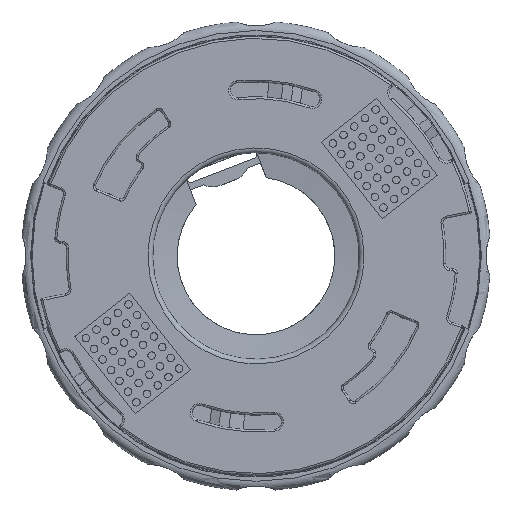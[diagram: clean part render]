
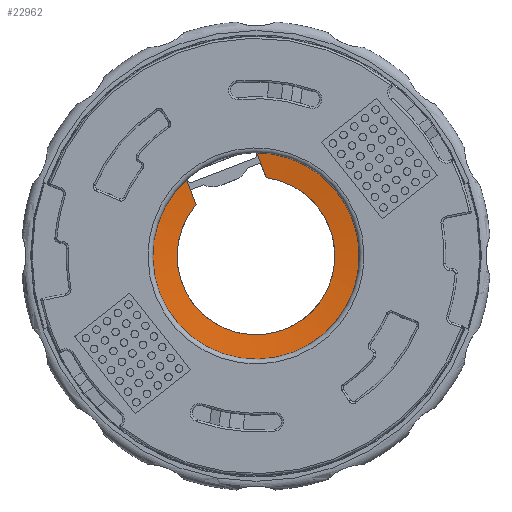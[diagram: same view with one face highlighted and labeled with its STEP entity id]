
A CAD part, top view. The second image highlights one B-rep face of the part: STEP entity #22962.
In plain terms, the highlighted conical face has half-angle 82.614 degrees and reference radius 11 mm.
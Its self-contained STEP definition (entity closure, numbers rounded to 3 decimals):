
#460=CONICAL_SURFACE('',#25172,11.,1.442);
#1275=CIRCLE('',#25152,11.);
#1282=CIRCLE('',#25169,8.4);
#1763=B_SPLINE_CURVE_WITH_KNOTS('',3,(#40210,#40211,#40212,#40213),
 .UNSPECIFIED.,.F.,.F.,(4,4),(0.,1.),.UNSPECIFIED.);
#1764=B_SPLINE_CURVE_WITH_KNOTS('',3,(#40228,#40229,#40230,#40231),
 .UNSPECIFIED.,.F.,.F.,(4,4),(0.,1.),.UNSPECIFIED.);
#8145=ORIENTED_EDGE('',*,*,#11428,.F.);
#8146=ORIENTED_EDGE('',*,*,#11520,.F.);
#8147=ORIENTED_EDGE('',*,*,#11436,.F.);
#8148=ORIENTED_EDGE('',*,*,#11507,.T.);
#11428=EDGE_CURVE('',#13709,#13710,#1763,.T.);
#11436=EDGE_CURVE('',#13714,#13715,#1764,.T.);
#11507=EDGE_CURVE('',#13714,#13710,#1275,.F.);
#11520=EDGE_CURVE('',#13715,#13709,#1282,.T.);
#13709=VERTEX_POINT('',#40209);
#13710=VERTEX_POINT('',#40214);
#13714=VERTEX_POINT('',#40227);
#13715=VERTEX_POINT('',#40232);
#19236=EDGE_LOOP('',(#8145,#8146,#8147,#8148));
#20816=FACE_BOUND('',#19236,.T.);
#22962=ADVANCED_FACE('',(#20816),#460,.F.);
#25152=AXIS2_PLACEMENT_3D('',#40398,#31122,#31123);
#25169=AXIS2_PLACEMENT_3D('',#40432,#31160,#31161);
#25172=AXIS2_PLACEMENT_3D('',#40435,#31166,#31167);
#31122=DIRECTION('',(0.,0.,-1.));
#31123=DIRECTION('',(0.358,-0.934,0.));
#31160=DIRECTION('',(0.,0.,1.));
#31161=DIRECTION('',(-0.76,0.65,0.));
#31166=DIRECTION('',(0.,0.,1.));
#31167=DIRECTION('',(0.358,-0.934,0.));
#40209=CARTESIAN_POINT('',(1.087,8.329,4.063));
#40210=CARTESIAN_POINT('',(1.087,8.329,4.063));
#40211=CARTESIAN_POINT('',(0.751,9.205,4.17));
#40212=CARTESIAN_POINT('',(0.398,10.125,4.287));
#40213=CARTESIAN_POINT('',(0.062,11.,4.4));
#40214=CARTESIAN_POINT('',(0.062,11.,4.4));
#40227=CARTESIAN_POINT('',(-7.406,8.133,4.4));
#40228=CARTESIAN_POINT('',(-7.406,8.133,4.4));
#40229=CARTESIAN_POINT('',(-7.071,7.258,4.287));
#40230=CARTESIAN_POINT('',(-6.717,6.338,4.17));
#40231=CARTESIAN_POINT('',(-6.381,5.463,4.063));
#40232=CARTESIAN_POINT('',(-6.381,5.463,4.063));
#40398=CARTESIAN_POINT('',(0.,0.,4.4));
#40432=CARTESIAN_POINT('',(0.,0.,4.063));
#40435=CARTESIAN_POINT('',(0.,0.,4.4));
